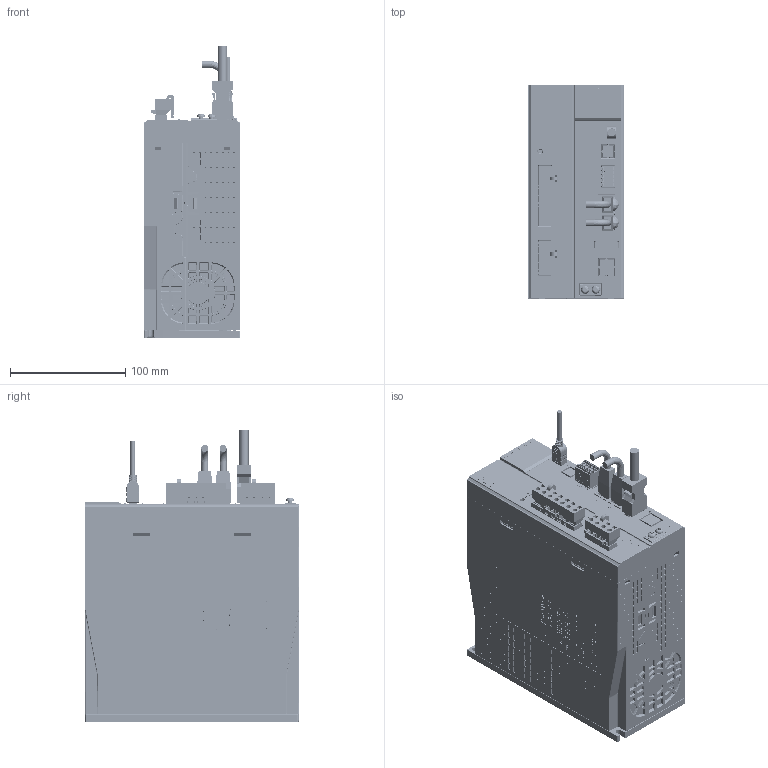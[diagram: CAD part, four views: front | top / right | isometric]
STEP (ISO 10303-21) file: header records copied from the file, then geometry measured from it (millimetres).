
FILE_DESCRIPTION(/* description */ (''),/* implementation_level */ '2;1');
FILE_NAME(/* name */ 'DS5C2-43P0-PTA-官网图+EPLAN图-240423',/* time_stamp */ '2024-04-24T10:49:30+08:00',/* author */ (''),/* organization */ (''),/* preprocessor_version */ 'ST-DEVELOPER v19.2',/* originating_system */ 'Rhino 8.1',/* authorisation */ '');
FILE_SCHEMA (('CONFIG_CONTROL_DESIGN'));
Products named in the file (3): Document; 图块 02; 图块 01
Bounding box: 83.1 x 185.7 x 252.2 mm (x, y, z)
Volume: 1751319.6 mm3; surface area: 513302 mm2
Topology: 923 solids, 926 shells, 25021 faces, 65966 edges, 43125 vertices
Faces by surface type: plane 17321, cylinder 4364, bspline 3336
Entity records: 859337 total; most frequent: CARTESIAN_POINT 390061, ORIENTED_EDGE 131401, EDGE_CURVE 65728, B_SPLINE_CURVE_WITH_KNOTS 61544, VERTEX_POINT 43125, DIRECTION 29555, EDGE_LOOP 26798, AXIS2_PLACEMENT_3D 25620
